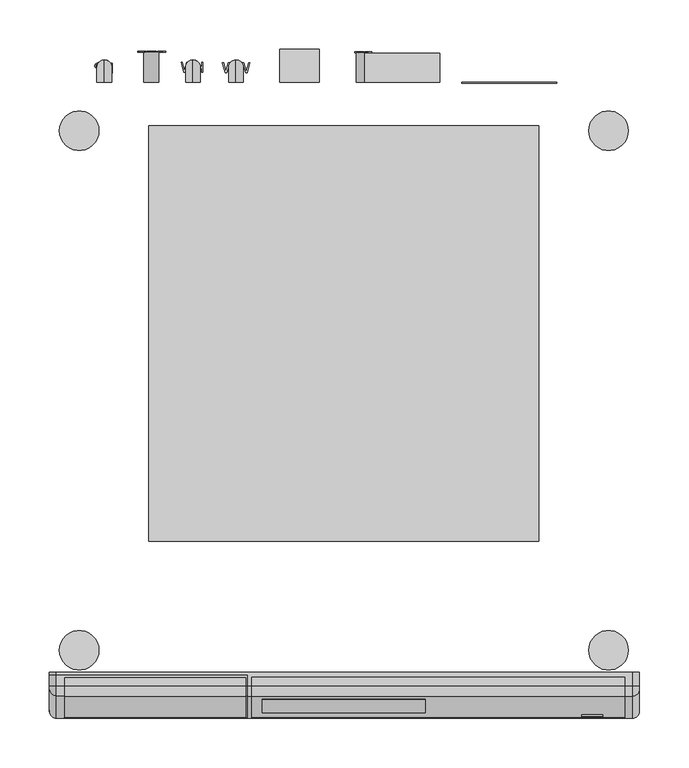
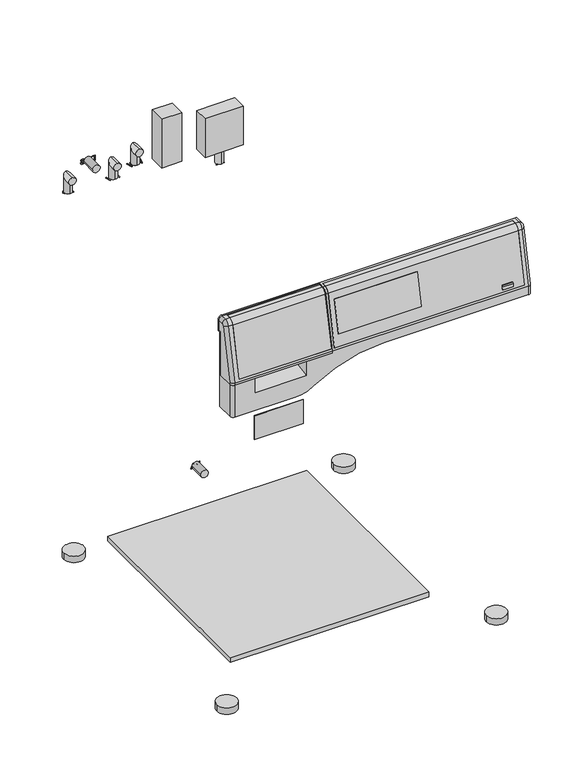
"""IFC4 building model written with IfcOpenShell, lengths in millimetres: proxy geometry, 11921280_F_PWM508DP_LW : 51508151_F_11921280_PWM508DP_LW."""

from ifc_helpers import new_model, si_unit, point, frame, frame_2d, origin, origin_with_axes, place, context, project, spatial, polyline, circle_curve, ellipse_curve, trimmed, segment, composite_curve, outline, extrude, source, transform, mapped, element, save
from ifc_brep_helpers import plane_surface, cylinder_surface, revolved_surface, advanced_brep


def specialty_equipment_2b658315(model_context):
    return source(origin(), model_context, "Body", "SolidModel", [
        advanced_brep(
        [(-297.5, -634.5, 819.0), (-297.5, -640.0, 819.0), (-297.5, -640.0, 727.0), (-297.5, -671.0, 727.0), (-297.5, -671.0, 730.2642704), (-297.5, -648.6353607, 835.4816256), (-297.5, -644.8274781, 838.6486082), (-297.5, -634.5, 838.9190427), (-97.5, -655.4823939, 836.9370075), (-97.5, -678.0, 731.0), (-97.5, -678.0, 727.0), (-97.5, -640.0, 727.0), (-97.5, -640.0, 819.0), (-97.5, -634.5, 819.0), (-97.5, -634.5, 845.9214422), (-97.5, -645.0107168, 845.6462094), (-98.5, -655.4823939, 836.9370075), (-98.5, -677.1497738, 735.0), (-282.5, -677.1497738, 735.0), (-282.5, -655.4823939, 836.9370075), (-290.5, -655.4823939, 836.9370075), (-290.5, -678.0, 731.0), (-290.5, -678.0, 727.0), (-290.5, -634.5, 845.9214422), (-290.5, -645.0107168, 845.6462094), (-282.5, -645.0107168, 845.6462094), (-282.5, -636.5, 845.8690704), (-98.5, -636.5, 845.8690704), (-98.5, -645.0107168, 845.6462094), (-98.5, -654.5042463, 836.7290958), (-98.5, -676.1274332, 735.0), (-98.5, -636.5, 844.8687276), (-98.5, -644.9845398, 844.6465521), (-282.5, -654.5042463, 836.7290958), (-282.5, -644.9845398, 844.6465521), (-282.5, -636.5, 844.8687276), (-282.5, -676.1274332, 735.0)],
        [
            (0, 1),
            (1, 2),
            (2, 3),
            (3, 4),
            (4, 5),
            (5, 6, circle_curve(frame((-297.5, -644.7227703, 834.6499789), z_axis=(-1.0, 0.0, 0.0), x_axis=(0.0, -0.978147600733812, 0.20791169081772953)), 4.0)),
            (6, 7),
            (7, 0),
            (8, 9),
            (9, 10),
            (10, 11),
            (11, 12),
            (12, 13),
            (13, 14),
            (14, 15),
            (15, 8, circle_curve(frame((-97.5, -644.7227703, 834.6499789), z_axis=(1.0, 0.0, 0.0), x_axis=(0.0, 1.0, 0.0)), 11.0)),
            (8, 16),
            (16, 17),
            (17, 18),
            (18, 19),
            (19, 20),
            (20, 21),
            (21, 9),
            (21, 22),
            (22, 10),
            (22, 3, circle_curve(frame((-290.5, -671.0, 727.0), z_axis=(0.0, 0.0, -1.0), x_axis=(0.0, 1.0, 0.0)), 7.0)),
            (2, 11),
            (1, 12),
            (0, 13),
            (7, 23, ellipse_curve(frame((-290.5, -634.5, 838.9190427), z_axis=(0.0, 1.0, 0.0), x_axis=(0.0, 0.0, 1.0)), 7.0023995, 7.0)),
            (23, 14),
            (23, 24),
            (24, 25),
            (25, 26),
            (26, 27),
            (27, 28),
            (28, 15),
            (28, 16, circle_curve(frame((-98.5, -644.7227703, 834.6499789), z_axis=(1.0, 0.0, 0.0), x_axis=(0.0, 1.0, 0.0)), 11.0)),
            (19, 25, circle_curve(frame((-282.5, -644.7227703, 834.6499789), z_axis=(-1.0, 0.0, 0.0), x_axis=(0.0, 1.0, 0.0)), 11.0)),
            (24, 20, circle_curve(frame((-290.5, -644.7227703, 834.6499789), z_axis=(1.0, 0.0, 0.0), x_axis=(0.0, 1.0, 0.0)), 11.0)),
            (29, 30),
            (30, 17),
            (27, 31),
            (31, 32),
            (32, 29, circle_curve(frame((-98.5, -644.7227703, 834.6499789), z_axis=(1.0, 0.0, 0.0), x_axis=(0.0, 1.0, 0.0)), 10.0)),
            (33, 34, circle_curve(frame((-282.5, -644.7227703, 834.6499789), z_axis=(-1.0, 0.0, 0.0), x_axis=(0.0, 1.0, 0.0)), 10.0)),
            (34, 35),
            (35, 26),
            (18, 36),
            (36, 33),
            (29, 33),
            (36, 30),
            (32, 34),
            (31, 35),
            (6, 24, circle_curve(frame((-290.5, -644.8274781, 838.6486082), z_axis=(0.0, 0.9996573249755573, 0.026176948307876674), x_axis=(0.0, 0.026176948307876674, -0.9996573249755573)), 7.0)),
            (21, 4, ellipse_curve(frame((-290.5, -671.0, 730.2642704), z_axis=(0.0, -0.10452846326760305, -0.9945218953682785), x_axis=(0.0, -0.9945218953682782, 0.1045284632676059)), 7.038558, 7.0)),
            (20, 5, circle_curve(frame((-290.5, -648.6353607, 835.4816256), z_axis=(0.0, -0.2079116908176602, -0.9781476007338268), x_axis=(0.0, 0.9781476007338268, -0.2079116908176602)), 7.0)),
        ],
        [
            plane_surface(frame((-297.5, -655.4823939, 836.9370075), z_axis=(-1.0, 0.0, 0.0), x_axis=(0.0, 0.20791169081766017, 0.9781476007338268))),
            plane_surface(frame((-97.5, -655.4823939, 836.9370075), z_axis=(1.0, 0.0, 0.0), x_axis=(0.0, -0.20791169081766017, -0.9781476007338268))),
            plane_surface(frame((-97.5, -655.4823939, 836.9370075), z_axis=(0.0, -0.9781476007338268, 0.20791169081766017), x_axis=(-1.0, 0.0, 0.0))),
            plane_surface(frame((-97.5, -678.0, 731.0), z_axis=(0.0, -1.0, 0.0), x_axis=(-1.0, 0.0, 0.0))),
            plane_surface(frame((-97.5, -678.0, 727.0), z_axis=(0.0, 0.0, -1.0), x_axis=(-1.0, 0.0, 0.0))),
            plane_surface(frame((-97.5, -640.0, 727.0), z_axis=(0.0, 1.0, 0.0), x_axis=(-1.0, 0.0, 0.0))),
            plane_surface(frame((-97.5, -640.0, 819.0), z_axis=(0.0, 0.0, -1.0), x_axis=(-1.0, 0.0, 0.0))),
            plane_surface(frame((-97.5, -634.5, 819.0), z_axis=(0.0, 1.0, 0.0), x_axis=(-1.0, 0.0, 0.0))),
            plane_surface(frame((-97.5, -634.5, 845.9214422), z_axis=(0.0, -0.02617694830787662, 0.9996573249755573), x_axis=(-1.0, 0.0, 0.0))),
            cylinder_surface(frame((-297.5, -644.7227703, 834.6499789), z_axis=(1.0, 0.0, 0.0), x_axis=(0.0, 1.0, 0.0)), 11.0),
            plane_surface(frame((-98.5, -634.7227703, 834.6499789), z_axis=(-1.0, 0.0, 0.0), x_axis=(0.0, 0.0, -1.0))),
            plane_surface(frame((-282.5, -634.7227703, 834.6499789), z_axis=(1.0, 0.0, 0.0), x_axis=(0.0, 0.0, 1.0))),
            plane_surface(frame((-98.5, -676.1274332, 735.0), z_axis=(0.0, -0.9781476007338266, 0.2079116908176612), x_axis=(-1.0, 0.0, 0.0))),
            cylinder_surface(frame((-282.5, -644.7227703, 834.6499789), z_axis=(-1.0, 0.0, 0.0), x_axis=(0.0, 1.0, 0.0)), 10.0),
            plane_surface(frame((-98.5, -644.9845398, 844.6465521), z_axis=(0.0, -0.026176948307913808, 0.9996573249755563), x_axis=(-1.0, 0.0, 0.0))),
            plane_surface(frame((-98.5, -636.5, 844.8687276), z_axis=(0.0, -1.0, 0.0), x_axis=(-1.0, 0.0, 0.0))),
            plane_surface(frame((-98.5, -677.1497738, 735.0), z_axis=(0.0, 0.0, 1.0), x_axis=(-1.0, 0.0, 0.0))),
            cylinder_surface(frame((-290.5, -644.8274781, 838.6486082), z_axis=(0.0, 0.9996573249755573, 0.026176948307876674), x_axis=(0.0, 0.026176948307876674, -0.9996573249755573)), 7.0),
            cylinder_surface(frame((-290.5, -671.0, 727.0), z_axis=(0.0, 0.0, 1.0), x_axis=(0.0, 1.0, 0.0)), 7.0),
            cylinder_surface(frame((-290.5, -671.1529668, 729.5446182), z_axis=(0.0, 0.2079116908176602, 0.9781476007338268), x_axis=(0.0, 0.9781476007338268, -0.2079116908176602)), 7.0),
            revolved_surface(trimmed(ellipse_curve(frame((-290.5, -648.6353607, 835.4816256), z_axis=(0.0, -0.20791169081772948, -0.978147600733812), x_axis=(0.0, 0.978147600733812, -0.20791169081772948)), 7.0, 7.0), [point((-290.5, -655.4823939, 836.9370075))], [point((-297.5, -648.6353607, 835.4816256))], True, "CARTESIAN"), (-297.5, -644.7227703, 834.6499789), (-1.0, 0.0, 0.0)),
        ],
        [
            (0, [[1, 2, 3, 4, 5, 6, 7, 8]]),
            (1, [[9, 10, 11, 12, 13, 14, 15, 16]]),
            (2, [[-9, 17, 18, 19, 20, 21, 22, 23]]),
            (3, [[-10, -23, 24, 25]]),
            (4, [[-11, -25, 26, -3, 27]]),
            (5, [[-2, 28, -12, -27]]),
            (6, [[-1, 29, -13, -28]]),
            (7, [[-14, -29, -8, 30, 31]]),
            (8, [[-15, -31, 32, 33, 34, 35, 36, 37]]),
            (9, [[-16, -37, 38, -17]]),
            (9, [[39, -33, 40, -21]]),
            (10, [[41, 42, -18, -38, -36, 43, 44, 45]]),
            (11, [[46, 47, 48, -34, -39, -20, 49, 50]]),
            (12, [[-41, 51, -50, 52]]),
            (13, [[-45, 53, -46, -51]]),
            (14, [[-44, 54, -47, -53]]),
            (15, [[-43, -35, -48, -54]]),
            (16, [[-42, -52, -49, -19]]),
            (17, [[55, -32, -30, -7]]),
            (18, [[56, -4, -26, -24]]),
            (19, [[-56, -22, 57, -5]]),
            (20, [[-57, -40, -55, -6]]),
        ],
    ),
        extrude(outline(polyline([(-671.2386322, 758.0), (-672.2609728, 758.0), (-658.4447963, 823.0), (-657.4224557, 823.0), (-671.2386322, 758.0)])), frame((-82.5, 0.0, 0.0), z_axis=(1.0, 0.0, 0.0), x_axis=(0.0, 1.0, 0.0)), (0.0, 0.0, 1.0), 165.0),
        advanced_brep(
        [(284.0, -654.5042463, 836.7290958), (284.0, -644.9845398, 844.6465521), (284.0, -636.5, 844.8687276), (284.0, -636.5, 845.8690704), (284.0, -645.0107168, 845.6462094), (284.0, -655.4823939, 836.9370075), (284.0, -677.1497738, 735.0), (284.0, -676.1274332, 735.0), (-93.0, -654.5042463, 836.7290958), (-93.0, -676.1274332, 735.0), (-93.0, -677.1497738, 735.0), (-93.0, -655.4823939, 836.9370075), (-93.0, -645.0107168, 845.6462094), (-93.0, -636.5, 845.8690704), (-93.0, -636.5, 844.8687276), (-93.0, -644.9845398, 844.6465521), (82.5, -658.4447963, 823.0), (82.5, -672.2609728, 758.0), (-82.5, -672.2609728, 758.0), (-82.5, -658.4447963, 823.0), (82.5, -671.2386322, 758.0), (82.5, -657.4224557, 823.0), (-82.5, -657.4224557, 823.0), (-82.5, -671.2386322, 758.0)],
        [
            (0, 1, circle_curve(frame((284.0, -644.7227703, 834.6499789), z_axis=(-1.0, 0.0, 0.0), x_axis=(0.0, 1.0, 0.0)), 10.0)),
            (1, 2),
            (2, 3),
            (3, 4),
            (4, 5, circle_curve(frame((284.0, -644.7227703, 834.6499789), z_axis=(1.0, 0.0, 0.0), x_axis=(0.0, 1.0, 0.0)), 11.0)),
            (5, 6),
            (6, 7),
            (7, 0),
            (8, 9),
            (9, 10),
            (10, 11),
            (11, 12, circle_curve(frame((-93.0, -644.7227703, 834.6499789), z_axis=(-1.0, 0.0, 0.0), x_axis=(0.0, 1.0, 0.0)), 11.0)),
            (12, 13),
            (13, 14),
            (14, 15),
            (15, 8, circle_curve(frame((-93.0, -644.7227703, 834.6499789), z_axis=(1.0, 0.0, 0.0), x_axis=(0.0, 1.0, 0.0)), 10.0)),
            (0, 8),
            (15, 1),
            (14, 2),
            (13, 3),
            (12, 4),
            (11, 5),
            (10, 6),
            (16, 17),
            (17, 18),
            (18, 19),
            (19, 16),
            (9, 7),
            (20, 21),
            (21, 22),
            (22, 23),
            (23, 20),
            (20, 17),
            (16, 21),
            (22, 19),
            (18, 23),
        ],
        [
            plane_surface(frame((284.0, -634.7227703, 834.6499789), z_axis=(1.0, 0.0, 0.0), x_axis=(0.0, 0.0, -1.0))),
            plane_surface(frame((-93.0, -634.7227703, 834.6499789), z_axis=(-1.0, 0.0, 0.0), x_axis=(0.0, 0.0, 1.0))),
            revolved_surface(polyline([(-93.0, -634.7227703, 834.6499789), (284.0, -634.7227703, 834.6499789)]), (-93.0, -644.7227703, 834.6499789), (-1.0, 0.0, 0.0)),
            plane_surface(frame((284.0, -644.9845398, 844.6465521), z_axis=(0.0, 0.02617694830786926, -0.9996573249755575), x_axis=(-1.0, 0.0, 0.0))),
            plane_surface(frame((284.0, -636.5, 844.8687276), z_axis=(0.0, 1.0, 0.0), x_axis=(-1.0, 0.0, 0.0))),
            plane_surface(frame((284.0, -636.5, 845.8690704), z_axis=(0.0, -0.026176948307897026, 0.9996573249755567), x_axis=(-1.0, 0.0, 0.0))),
            cylinder_surface(frame((-93.0, -644.7227703, 834.6499789), z_axis=(1.0, 0.0, 0.0), x_axis=(0.0, 1.0, 0.0)), 11.0),
            plane_surface(frame((284.0, -655.4823939, 836.9370075), z_axis=(0.0, -0.9781476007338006, 0.20791169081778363), x_axis=(-1.0, 0.0, 0.0))),
            plane_surface(frame((284.0, -677.1497738, 735.0), z_axis=(0.0, 0.0, -1.0), x_axis=(-1.0, 0.0, 0.0))),
            plane_surface(frame((284.0, -676.1274332, 735.0), z_axis=(0.0, 0.9781476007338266, -0.2079116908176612), x_axis=(-1.0, 0.0, 0.0))),
            plane_surface(frame((82.5, -658.4447963, 823.0), z_axis=(-1.0, 0.0, 0.0), x_axis=(0.0, -1.0, 0.0))),
            plane_surface(frame((-82.5, -658.4447963, 823.0), z_axis=(1.0, 0.0, 0.0), x_axis=(0.0, 1.0, 0.0))),
            plane_surface(frame((82.5, -657.4224557, 823.0), z_axis=(0.0, 0.0, -1.0), x_axis=(-1.0, 0.0, 0.0))),
            plane_surface(frame((82.5, -672.2609728, 758.0), z_axis=(0.0, 0.0, 1.0), x_axis=(-1.0, 0.0, 0.0))),
        ],
        [
            (0, [[1, 2, 3, 4, 5, 6, 7, 8]]),
            (1, [[9, 10, 11, 12, 13, 14, 15, 16]]),
            (2, [[-1, 17, -16, 18]]),
            (3, [[-2, -18, -15, 19]]),
            (4, [[-3, -19, -14, 20]]),
            (5, [[-4, -20, -13, 21]]),
            (6, [[-5, -21, -12, 22]]),
            (7, [[-6, -22, -11, 23], [24, 25, 26, 27]]),
            (8, [[-7, -23, -10, 28]]),
            (9, [[-8, -28, -9, -17], [29, 30, 31, 32]]),
            (10, [[33, -24, 34, -29]]),
            (11, [[35, -26, 36, -31]]),
            (12, [[-34, -27, -35, -30]]),
            (13, [[-33, -32, -36, -25]]),
        ],
    ),
        advanced_brep(
        [(298.5, -637.0, 816.0), (298.5, -631.5, 816.0), (298.5, -631.5, 838.9976005), (298.5, -644.8274781, 838.6486082), (298.5, -648.6353607, 835.4816256), (298.5, -671.0, 730.2642704), (298.5, -671.0, 713.0), (298.5, -637.0, 713.0), (-297.5, -637.0, 816.0), (-297.5, -637.0, 660.0), (-297.5, -671.0, 660.0), (-297.5, -671.0, 727.0), (-297.5, -640.0, 727.0), (-297.5, -640.0, 819.0), (-297.5, -634.5, 819.0), (-297.5, -634.5, 838.9190427), (-297.5, -631.5, 838.9976005), (-297.5, -631.5, 816.0), (-290.5, -631.5, 846.0), (291.5, -631.5, 846.0), (284.0, -636.5, 845.8690704), (284.0, -645.0107168, 845.6462094), (291.5, -645.0107168, 845.6462094), (-290.5, -634.5, 845.9214422), (-97.5, -634.5, 845.9214422), (-97.5, -645.0107168, 845.6462094), (-93.0, -645.0107168, 845.6462094), (-93.0, -636.5, 845.8690704), (284.0, -655.4823939, 836.9370075), (291.5000072, -655.4823939, 836.9370075), (-93.0, -655.4823939, 836.9370075), (-97.5, -655.4823939, 836.9370075), (284.0, -677.1497738, 735.0), (-93.0, -677.1497738, 735.0), (-97.5, -678.0, 731.0), (291.5, -678.0, 731.0), (-97.5, -678.0, 727.0), (-148.5, -678.0, 727.0), (-148.5, -678.0, 697.0), (-251.5, -678.0, 697.0), (-251.5, -678.0, 727.0), (-290.5, -678.0, 727.0), (-290.5, -678.0, 660.0), (-170.6302935, -678.0, 660.0), (-135.780818, -678.0, 670.5165354), (5.0, -678.0, 713.0), (291.5, -678.0, 713.0), (-170.6302935, -637.0, 660.0), (5.0, -637.0, 713.0), (-135.780818, -637.0, 670.5165354), (284.0, -636.5, 844.8687276), (284.0, -644.9845398, 844.6465521), (284.0, -654.5042463, 836.7290958), (284.0, -676.1274332, 735.0), (-93.0, -676.1274332, 735.0), (-93.0, -654.5042463, 836.7290958), (-93.0, -644.9845398, 844.6465521), (-93.0, -636.5, 844.8687276), (-97.5, -634.5, 819.0), (-97.5, -640.0, 819.0), (-97.5, -640.0, 727.0), (-148.5, -640.0, 727.0), (-251.5, -640.0, 727.0), (-251.5, -640.0, 703.7004253), (-148.5, -640.0, 703.7004253)],
        [
            (0, 1),
            (1, 2),
            (2, 3),
            (3, 4, circle_curve(frame((298.5, -644.7227703, 834.6499789), z_axis=(1.0, 0.0, 0.0), x_axis=(0.0, -0.02617694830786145, 0.9996573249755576)), 4.0)),
            (4, 5),
            (5, 6),
            (6, 7),
            (7, 0),
            (8, 9),
            (9, 10),
            (10, 11),
            (11, 12),
            (12, 13),
            (13, 14),
            (14, 15),
            (15, 16),
            (16, 17),
            (17, 8),
            (0, 8),
            (17, 1),
            (16, 18, ellipse_curve(frame((-290.5, -631.5, 838.9976005), z_axis=(0.0, 1.0, 0.0), x_axis=(0.0, 0.0, 0.9999999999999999)), 7.0023995, 7.0)),
            (18, 19),
            (19, 2, ellipse_curve(frame((291.5, -631.5, 838.9976005), z_axis=(0.0, 1.0, 0.0), x_axis=(0.0, 0.0, -1.0)), 7.0023995, 7.0)),
            (20, 21),
            (21, 22),
            (22, 19),
            (18, 23),
            (23, 24),
            (24, 25),
            (25, 26),
            (26, 27),
            (27, 20),
            (21, 28, circle_curve(frame((284.0, -644.7227703, 834.6499789), z_axis=(1.0, 0.0, 0.0), x_axis=(0.0, 1.0, 0.0)), 11.0)),
            (28, 29),
            (29, 22, circle_curve(frame((291.5, -644.7227703, 834.6499789), z_axis=(-1.0, 0.0, 0.0), x_axis=(0.0, 1.0, 0.0)), 11.0)),
            (30, 26, circle_curve(frame((-93.0, -644.7227703, 834.6499789), z_axis=(-1.0, 0.0, 0.0), x_axis=(0.0, 1.0, 0.0)), 11.0)),
            (25, 31, circle_curve(frame((-97.5, -644.7227703, 834.6499789), z_axis=(1.0, 0.0, 0.0), x_axis=(0.0, 1.0, 0.0)), 11.0)),
            (31, 30),
            (28, 32),
            (32, 33),
            (33, 30),
            (31, 34),
            (34, 35),
            (35, 29),
            (34, 36),
            (36, 37),
            (37, 38),
            (38, 39),
            (39, 40),
            (40, 41),
            (41, 42),
            (42, 43),
            (43, 44, circle_curve(frame((-170.6302935, -678.0, 723.0), z_axis=(0.0, -1.0, 0.0), x_axis=(1.0, 0.0, 0.0)), 63.0)),
            (44, 45, circle_curve(frame((5.0, -678.0, 458.5), z_axis=(0.0, 1.0, 0.0), x_axis=(1.0, 0.0, 0.0)), 254.5)),
            (45, 46),
            (46, 35),
            (9, 47),
            (47, 43),
            (42, 10, circle_curve(frame((-290.5, -671.0, 660.0), z_axis=(0.0, 0.0, -1.0), x_axis=(0.0, 1.0, 0.0)), 7.0)),
            (7, 48),
            (48, 49, circle_curve(frame((5.0, -637.0, 458.5), z_axis=(0.0, -1.0, 0.0), x_axis=(1.0, 0.0, 0.0)), 254.5)),
            (49, 47, circle_curve(frame((-170.6302935, -637.0, 723.0), z_axis=(0.0, 1.0, 0.0), x_axis=(1.0, 0.0, 0.0)), 63.0)),
            (20, 50),
            (50, 51),
            (51, 52, circle_curve(frame((284.0, -644.7227703, 834.6499789), z_axis=(1.0, 0.0, 0.0), x_axis=(0.0, 1.0, 0.0)), 10.0)),
            (52, 53),
            (53, 32),
            (33, 54),
            (54, 55),
            (55, 56, circle_curve(frame((-93.0, -644.7227703, 834.6499789), z_axis=(-1.0, 0.0, 0.0), x_axis=(0.0, 1.0, 0.0)), 10.0)),
            (56, 57),
            (57, 27),
            (53, 54),
            (52, 55),
            (51, 56),
            (50, 57),
            (24, 58),
            (58, 59),
            (59, 60),
            (60, 36),
            (60, 61),
            (61, 37),
            (62, 12),
            (11, 41, circle_curve(frame((-290.5, -671.0, 727.0), z_axis=(0.0, 0.0, 1.0), x_axis=(0.0, 1.0, 0.0)), 7.0)),
            (40, 62),
            (59, 13),
            (62, 63),
            (63, 64),
            (64, 61),
            (58, 14),
            (23, 15, ellipse_curve(frame((-290.5, -634.5, 838.9190427), z_axis=(0.0, -1.0, 0.0), x_axis=(0.0, 0.0, 0.9999999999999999)), 7.0023995, 7.0)),
            (64, 38),
            (39, 63),
            (22, 3, circle_curve(frame((291.5, -644.8274781, 838.6486082), z_axis=(0.0, 0.9996573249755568, 0.02617694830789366), x_axis=(1.0, 0.0, 0.0)), 7.0)),
            (29, 4, circle_curve(frame((291.5, -648.6353607, 835.4816256), z_axis=(0.0, 0.20791169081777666, 0.9781476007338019), x_axis=(1.0, 0.0, 0.0)), 7.0)),
            (35, 5, ellipse_curve(frame((291.5, -671.0, 730.2642704), z_axis=(0.0, 0.10452846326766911, 0.9945218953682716), x_axis=(0.0, -0.9945218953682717, 0.10452846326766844)), 7.038558, 7.0)),
            (46, 6, circle_curve(frame((291.5, -671.0, 713.0), z_axis=(0.0, 0.0, 1.0), x_axis=(1.0, 0.0, 0.0)), 7.0)),
            (45, 48),
            (44, 49),
        ],
        [
            plane_surface(frame((298.5, -631.5, 816.0), z_axis=(1.0, 0.0, 0.0), x_axis=(0.0, 1.0, 0.0))),
            plane_surface(frame((-297.5, -631.5, 816.0), z_axis=(-1.0, 0.0, 0.0), x_axis=(0.0, -1.0, 0.0))),
            plane_surface(frame((298.5, -637.0, 816.0), z_axis=(0.0, 0.0, -1.0), x_axis=(-1.0, 0.0, 0.0))),
            plane_surface(frame((298.5, -631.5, 816.0), z_axis=(0.0, 1.0, 0.0), x_axis=(-1.0, 0.0, 0.0))),
            plane_surface(frame((298.5, -631.5, 846.0), z_axis=(0.0, -0.026176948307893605, 0.9996573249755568), x_axis=(-1.0, 0.0, 0.0))),
            cylinder_surface(frame((-297.5, -644.7227703, 834.6499789), z_axis=(1.0, 0.0, 0.0), x_axis=(0.0, 1.0, 0.0)), 11.0),
            plane_surface(frame((298.5, -655.4823939, 836.9370075), z_axis=(0.0, -0.9781476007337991, 0.20791169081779), x_axis=(-1.0, 0.0, 0.0))),
            plane_surface(frame((298.5, -678.0, 731.0), z_axis=(0.0, -1.0, 0.0), x_axis=(-1.0, 0.0, 0.0))),
            plane_surface(frame((298.5, -678.0, 660.0), z_axis=(0.0, 0.0, -1.0), x_axis=(-1.0, 0.0, 0.0))),
            plane_surface(frame((298.5, -637.0, 660.0), z_axis=(0.0, 1.0, 0.0), x_axis=(-1.0, 0.0, 0.0))),
            plane_surface(frame((284.0, -677.1497738, 735.0), z_axis=(-1.0, 0.0, 0.0), x_axis=(0.0, 1.0, 0.0))),
            plane_surface(frame((-93.0, -677.1497738, 735.0), z_axis=(1.0, 0.0, 0.0), x_axis=(0.0, -1.0, 0.0))),
            plane_surface(frame((284.0, -677.1497738, 735.0), z_axis=(0.0, 0.0, 1.0), x_axis=(-1.0, 0.0, 0.0))),
            plane_surface(frame((284.0, -676.1274332, 735.0), z_axis=(0.0, -0.9781476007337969, 0.20791169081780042), x_axis=(-1.0, 0.0, 0.0))),
            cylinder_surface(frame((-93.0, -644.7227703, 834.6499789), z_axis=(-1.0, 0.0, 0.0), x_axis=(0.0, 1.0, 0.0)), 10.0),
            plane_surface(frame((284.0, -644.9845398, 844.6465521), z_axis=(0.0, -0.026176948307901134, 0.9996573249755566), x_axis=(-1.0, 0.0, 0.0))),
            plane_surface(frame((284.0, -636.5, 844.8687276), z_axis=(0.0, -1.0, 0.0), x_axis=(-1.0, 0.0, 0.0))),
            plane_surface(frame((-97.5, -678.0, 727.0), z_axis=(-1.0, 0.0, 0.0), x_axis=(0.0, 1.0, 0.0))),
            plane_surface(frame((-97.5, -678.0, 727.0), z_axis=(0.0, 0.0, 1.0), x_axis=(-1.0, 0.0, 0.0))),
            plane_surface(frame((-97.5, -640.0, 727.0), z_axis=(0.0, -1.0, 0.0), x_axis=(-1.0, 0.0, 0.0))),
            plane_surface(frame((-97.5, -640.0, 819.0), z_axis=(0.0, 0.0, 1.0), x_axis=(-1.0, 0.0, 0.0))),
            plane_surface(frame((-97.5, -634.5, 819.0), z_axis=(0.0, -1.0, 0.0), x_axis=(-1.0, 0.0, 0.0))),
            plane_surface(frame((-148.5, -678.0, 697.0), z_axis=(-1.0000000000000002, 0.0, 0.0), x_axis=(0.0, 0.9848077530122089, 0.17364817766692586))),
            plane_surface(frame((-251.5, -678.0, 697.0), z_axis=(1.0000000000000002, 0.0, 0.0), x_axis=(0.0, -0.9848077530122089, -0.17364817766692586))),
            plane_surface(frame((-148.5, -678.0, 697.0), z_axis=(0.0, -0.17364817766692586, 0.9848077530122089), x_axis=(-1.0, 0.0, 0.0))),
            cylinder_surface(frame((-290.5, -671.0, 660.0), z_axis=(0.0, 0.0, 1.0), x_axis=(0.0, 1.0, 0.0)), 7.0),
            cylinder_surface(frame((-290.5, -644.8274781, 838.6486082), z_axis=(0.0, 0.9996573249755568, 0.02617694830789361), x_axis=(0.0, 0.02617694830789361, -0.9996573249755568)), 7.0),
            cylinder_surface(frame((291.5, -631.3167614, 839.0023987), z_axis=(0.0, -0.9996573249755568, -0.02617694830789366), x_axis=(1.0, 0.0, 0.0)), 7.0),
            revolved_surface(trimmed(ellipse_curve(frame((291.5, -644.8274781, 838.6486082), z_axis=(0.0, 0.9996573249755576, 0.026176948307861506), x_axis=(1.0, 0.0, 0.0)), 7.0, 7.0), [point((291.5, -645.0107168, 845.6462094))], [point((298.5, -644.8274781, 838.6486082))], True, "CARTESIAN"), (298.5, -644.7227703, 834.6499789), (1.0, 0.0, 0.0)),
            cylinder_surface(frame((291.5, -648.6353607, 835.4816256), z_axis=(0.0, -0.20791169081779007, -0.9781476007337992), x_axis=(1.0, 0.0, 0.0)), 7.0),
            cylinder_surface(frame((291.5, -671.0, 731.0), z_axis=(0.0, 0.0, -1.0), x_axis=(1.0, 0.0, 0.0)), 7.0),
            plane_surface(frame((298.5, -678.0, 713.0), z_axis=(0.0, 0.0, -1.0), x_axis=(0.0, 1.0, 0.0))),
            revolved_surface(polyline([(259.5, -678.0, 458.5), (259.5, -637.0, 458.5)]), (5.0, -637.0, 458.5), (0.0, -1.0, 0.0)),
            cylinder_surface(frame((-170.6302935, -637.0, 723.0), z_axis=(0.0, 1.0, 0.0), x_axis=(1.0, 0.0, 0.0)), 63.0),
        ],
        [
            (0, [[1, 2, 3, 4, 5, 6, 7, 8]]),
            (1, [[9, 10, 11, 12, 13, 14, 15, 16, 17, 18]]),
            (2, [[-1, 19, -18, 20]]),
            (3, [[-20, -17, 21, 22, 23, -2]]),
            (4, [[24, 25, 26, -22, 27, 28, 29, 30, 31, 32]]),
            (5, [[33, 34, 35, -25]]),
            (5, [[36, -30, 37, 38]]),
            (6, [[39, 40, 41, -38, 42, 43, 44, -34]]),
            (7, [[45, 46, 47, 48, 49, 50, 51, 52, 53, 54, 55, 56, -43]]),
            (8, [[-10, 57, 58, -52, 59]]),
            (9, [[-9, -19, -8, 60, 61, 62, -57]]),
            (10, [[63, 64, 65, 66, 67, -39, -33, -24]]),
            (11, [[68, 69, 70, 71, 72, -31, -36, -41]]),
            (12, [[-67, 73, -68, -40]]),
            (13, [[-66, 74, -69, -73]]),
            (14, [[-65, 75, -70, -74]]),
            (15, [[-64, 76, -71, -75]]),
            (16, [[-63, -32, -72, -76]]),
            (17, [[77, 78, 79, 80, -45, -42, -37, -29]]),
            (18, [[-80, 81, 82, -46]]),
            (18, [[83, -12, 84, -50, 85]]),
            (19, [[-79, 86, -13, -83, 87, 88, 89, -81]]),
            (20, [[-78, 90, -14, -86]]),
            (21, [[-77, -28, 91, -15, -90]]),
            (22, [[-89, 92, -47, -82]]),
            (23, [[93, -87, -85, -49]]),
            (24, [[-92, -88, -93, -48]]),
            (25, [[-11, -59, -51, -84]]),
            (26, [[-16, -91, -27, -21]]),
            (27, [[94, -3, -23, -26]]),
            (28, [[-94, -35, 95, -4]]),
            (29, [[-95, -44, 96, -5]]),
            (30, [[-96, -56, 97, -6]]),
            (31, [[98, -60, -7, -97, -55]]),
            (32, [[-98, -54, 99, -61]]),
            (33, [[-99, -53, -58, -62]]),
        ],
    ),
        extrude(outline(polyline([(-675.8744344, 741.0), (-678.0, 741.0), (-676.8772818, 746.2819736), (-675.6098453, 749.0), (-674.1739819, 749.0), (-675.8744344, 741.0)])), frame((240.5, 0.0, 0.0), z_axis=(1.0, 0.0, 0.0), x_axis=(0.0, 1.0, 0.0)), (0.0, 0.0, 1.0), 21.0),
        extrude(outline(composite_curve([segment(polyline([(-676.1274332, 735.0), (-677.1497738, 735.0), (-655.4823939, 836.9370075)]), True, "CONTINUOUS"), segment(trimmed(circle_curve(frame_2d((-644.7227703, 834.6499789)), 11.0), [point((-655.4823939, 836.9370075))], [point((-645.0107168, 845.6462094))], False, "CARTESIAN"), True, "CONTINUOUS"), segment(polyline([(-645.0107168, 845.6462094), (-636.5, 845.8690704), (-636.5, 844.8687276), (-644.9845398, 844.6465521)]), True, "CONTINUOUS"), segment(trimmed(circle_curve(frame_2d((-644.7227703, 834.6499789)), 10.0), [point((-644.9845398, 844.6465521))], [point((-654.5042463, 836.7290958))], True, "CARTESIAN"), True, "CONTINUOUS"), segment(polyline([(-654.5042463, 836.7290958), (-676.1274332, 735.0)]), True, "CONTINUOUS")], self_intersect=False)), frame((-282.5, 0.0, 0.0), z_axis=(1.0, 0.0, 0.0), x_axis=(0.0, 1.0, 0.0)), (0.0, 0.0, 1.0), 184.0),
        advanced_brep(
        [(-242.0, -35.0, 740.5), (-242.0, -35.0, 755.5), (-242.0, -27.5, 740.5), (-242.0, -12.5, 755.5), (-242.0, -27.5, 718.0), (-242.0, -12.5, 718.0)],
        [
            (0, 1, circle_curve(frame((-242.0, -35.0, 748.0), z_axis=(0.0, -1.0, 0.0), x_axis=(0.0, 0.0, 1.0)), 7.5)),
            (1, 0, circle_curve(frame((-242.0, -35.0, 748.0), z_axis=(0.0, -1.0, 0.0), x_axis=(0.0, 0.0, 1.0)), 7.5)),
            (0, 2),
            (2, 3, ellipse_curve(frame((-242.0, -20.0, 748.0), z_axis=(0.0, -0.7071067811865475, 0.7071067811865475), x_axis=(0.0, -0.7071067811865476, -0.7071067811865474)), 10.6066017, 7.5)),
            (3, 1),
            (3, 2, ellipse_curve(frame((-242.0, -20.0, 748.0), z_axis=(0.0, -0.7071067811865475, 0.7071067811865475), x_axis=(0.0, -0.7071067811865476, -0.7071067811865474)), 10.6066017, 7.5)),
            (4, 5, circle_curve(frame((-242.0, -20.0, 718.0), z_axis=(0.0, 0.0, -1.0), x_axis=(0.0, 1.0, 0.0)), 7.5)),
            (5, 4, circle_curve(frame((-242.0, -20.0, 718.0), z_axis=(0.0, 0.0, -1.0), x_axis=(0.0, 1.0, 0.0)), 7.5)),
            (2, 4),
            (5, 3),
        ],
        [
            plane_surface(frame((-298.0, -35.0, 748.0), z_axis=(0.0, -1.0, 0.0), x_axis=(1.0, 0.0, 0.0))),
            cylinder_surface(frame((-242.0, -35.0, 748.0), z_axis=(0.0, -1.0, 0.0), x_axis=(0.0, 0.0, 1.0)), 7.5),
            plane_surface(frame((-298.0, -20.0, 718.0), z_axis=(0.0, 0.0, -1.0), x_axis=(1.0, 0.0, 0.0))),
            cylinder_surface(frame((-242.0, -20.0, 748.0), z_axis=(0.0, 0.0, 1.0), x_axis=(0.0, 1.0, 0.0)), 7.5),
        ],
        [
            (0, [[1, 2]]),
            (1, [[-1, 3, 4, 5]]),
            (1, [[-2, -5, 6, -3]]),
            (2, [[7, 8]]),
            (3, [[-4, 9, -8, 10]]),
            (3, [[-6, -10, -7, -9]]),
        ],
    ),
        extrude(outline(composite_curve([segment(trimmed(circle_curve(frame_2d((757.5, -194.5)), 7.5), [point((757.5, -187.0))], [point((757.5, -202.0))], False, "CARTESIAN"), True, "CONTINUOUS"), segment(trimmed(circle_curve(frame_2d((757.5, -194.5)), 7.5), [point((757.5, -202.0))], [point((757.5, -187.0))], False, "CARTESIAN"), True, "CONTINUOUS")], self_intersect=False)), frame((0.0, -35.0, 0.0), z_axis=(0.0, 1.0, 0.0), x_axis=(0.0, 0.0, 1.0)), (0.0, 0.0, 1.0), 30.0),
        extrude(outline(polyline([(752.5, -179.9815352), (762.545631, -179.9815352), (762.545631, -183.4469836), (762.4009308, -185.2397952), (761.6823346, -186.7162282), (759.965552, -187.9057134), (757.5767715, -188.3005734), (755.5497417, -188.0332458), (754.0867977, -187.3465327), (753.1756766, -186.4292803), (752.6716783, -185.2287587), (752.5, -183.6137568), (752.5, -179.9815352)]), holes=[polyline([(753.7557039, -181.2372391), (753.7557039, -183.4592463), (753.9371923, -185.0754745), (754.4497746, -186.0074423), (755.6968945, -186.7714105), (757.5963919, -187.0448695), (759.9753621, -186.5089881), (761.0888183, -185.2054595), (761.2899271, -183.4249107), (761.2899271, -181.2372391), (753.7557039, -181.2372391)])]), frame((0.0, -5.0, 0.0), z_axis=(0.0, 1.0, 0.0), x_axis=(0.0, 0.0, 1.0)), (0.0, 0.0, 1.0), 1.0),
        extrude(outline(polyline([(757.390378, -189.5562772), (761.2923797, -190.8953677), (762.702594, -194.3510059), (762.0404064, -196.8501509), (760.1936388, -198.5473132), (757.5056477, -199.1310193), (754.7808684, -198.5166564), (752.9610788, -196.7753483), (752.343037, -194.3436483), (753.0260713, -191.8175252), (754.8900067, -190.1301732), (757.390378, -189.5562772)]), holes=[polyline([(757.3781153, -190.8119811), (754.6091901, -191.816299), (753.5987409, -194.3362906), (754.6190003, -196.8783552), (757.5154579, -197.8753154), (759.5878598, -197.4485723), (760.9600596, -196.2014524), (761.4468901, -194.3583636), (760.508791, -191.8592185), (757.3781153, -190.8119811)])]), frame((0.0, -5.0, 0.0), z_axis=(0.0, 1.0, 0.0), x_axis=(0.0, 0.0, 1.0)), (0.0, 0.0, 1.0), 1.0),
        extrude(outline(polyline([(755.9531857, -200.3867232), (755.9531857, -201.6424271), (754.6962555, -202.0470973), (753.9016304, -203.0354736), (753.5987409, -204.5413372), (753.828054, -205.8534496), (754.4583585, -206.7008045), (755.3008083, -206.9791685), (756.0843969, -206.7707021), (756.654614, -205.9172158), (757.1340869, -204.0888423), (757.7533549, -202.1206737), (758.6877752, -201.0525896), (759.9361214, -200.7006492), (761.3573722, -201.1359762), (762.3604637, -202.4076216), (762.702594, -204.2691045), (762.3445222, -206.2556673), (761.2923797, -207.5800425), (759.7202973, -208.0779094), (759.7202973, -206.8222056), (761.0103368, -206.110967), (761.4468901, -204.3181554), (761.0152419, -202.5204388), (759.9729096, -201.956353), (759.1022555, -202.3561181), (758.4008272, -204.4064471), (757.7705227, -206.6284544), (756.7527159, -207.8436912), (755.3326914, -208.2348724), (753.8305065, -207.7848301), (752.7342182, -206.4898855), (752.343037, -204.5903881), (752.764875, -202.3475342), (754.0352942, -200.928736), (755.9531857, -200.3867232)])), frame((0.0, -5.0, 0.0), z_axis=(0.0, 1.0, 0.0), x_axis=(0.0, 0.0, 1.0)), (0.0, 0.0, 1.0), 1.0),
        advanced_brep(
        [(-152.5, -35.0, 739.0), (-152.5, -35.0, 754.0), (-152.5, -27.5, 739.0), (-152.5, -12.5, 754.0), (-152.5, -27.5, 716.5), (-152.5, -12.5, 716.5)],
        [
            (0, 1, circle_curve(frame((-152.5, -35.0, 746.5), z_axis=(0.0, -1.0, 0.0), x_axis=(0.0, 0.0, 1.0)), 7.5)),
            (1, 0, circle_curve(frame((-152.5, -35.0, 746.5), z_axis=(0.0, -1.0, 0.0), x_axis=(0.0, 0.0, 1.0)), 7.5)),
            (0, 2),
            (2, 3, ellipse_curve(frame((-152.5, -20.0, 746.5), z_axis=(0.0, -0.7071067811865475, 0.7071067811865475), x_axis=(0.0, -0.7071067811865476, -0.7071067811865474)), 10.6066017, 7.5)),
            (3, 1),
            (3, 2, ellipse_curve(frame((-152.5, -20.0, 746.5), z_axis=(0.0, -0.7071067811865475, 0.7071067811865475), x_axis=(0.0, -0.7071067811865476, -0.7071067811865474)), 10.6066017, 7.5)),
            (4, 5, circle_curve(frame((-152.5, -20.0, 716.5), z_axis=(0.0, 0.0, -1.0), x_axis=(0.0, 1.0, 0.0)), 7.5)),
            (5, 4, circle_curve(frame((-152.5, -20.0, 716.5), z_axis=(0.0, 0.0, -1.0), x_axis=(0.0, 1.0, 0.0)), 7.5)),
            (2, 4),
            (5, 3),
        ],
        [
            plane_surface(frame((-298.0, -35.0, 746.5), z_axis=(0.0, -1.0, 0.0), x_axis=(1.0, 0.0, 0.0))),
            cylinder_surface(frame((-152.5, -35.0, 746.5), z_axis=(0.0, -1.0, 0.0), x_axis=(0.0, 0.0, 1.0)), 7.5),
            plane_surface(frame((-298.0, -20.0, 716.5), z_axis=(0.0, 0.0, -1.0), x_axis=(1.0, 0.0, 0.0))),
            cylinder_surface(frame((-152.5, -20.0, 746.5), z_axis=(0.0, 0.0, 1.0), x_axis=(0.0, 1.0, 0.0)), 7.5),
        ],
        [
            (0, [[1, 2]]),
            (1, [[-1, 3, 4, 5]]),
            (1, [[-2, -5, 6, -3]]),
            (2, [[7, 8]]),
            (3, [[-4, 9, -8, 10]]),
            (3, [[-6, -10, -7, -9]]),
        ],
    ),
        advanced_brep(
        [(-109.0, -35.0, 753.5), (-109.0, -35.0, 768.5), (-109.0, -27.5, 753.5), (-109.0, -12.5, 768.5), (-109.0, -27.5, 731.0), (-109.0, -12.5, 731.0)],
        [
            (0, 1, circle_curve(frame((-109.0, -35.0, 761.0), z_axis=(0.0, -1.0, 0.0), x_axis=(0.0, 0.0, 1.0)), 7.5)),
            (1, 0, circle_curve(frame((-109.0, -35.0, 761.0), z_axis=(0.0, -1.0, 0.0), x_axis=(0.0, 0.0, 1.0)), 7.5)),
            (0, 2),
            (2, 3, ellipse_curve(frame((-109.0, -20.0, 761.0), z_axis=(0.0, -0.7071067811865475, 0.7071067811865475), x_axis=(0.0, -0.7071067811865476, -0.7071067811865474)), 10.6066017, 7.5)),
            (3, 1),
            (3, 2, ellipse_curve(frame((-109.0, -20.0, 761.0), z_axis=(0.0, -0.7071067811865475, 0.7071067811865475), x_axis=(0.0, -0.7071067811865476, -0.7071067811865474)), 10.6066017, 7.5)),
            (4, 5, circle_curve(frame((-109.0, -20.0, 731.0), z_axis=(0.0, 0.0, -1.0), x_axis=(0.0, 1.0, 0.0)), 7.5)),
            (5, 4, circle_curve(frame((-109.0, -20.0, 731.0), z_axis=(0.0, 0.0, -1.0), x_axis=(0.0, 1.0, 0.0)), 7.5)),
            (2, 4),
            (5, 3),
        ],
        [
            plane_surface(frame((-298.0, -35.0, 761.0), z_axis=(0.0, -1.0, 0.0), x_axis=(1.0, 0.0, 0.0))),
            cylinder_surface(frame((-109.0, -35.0, 761.0), z_axis=(0.0, -1.0, 0.0), x_axis=(0.0, 0.0, 1.0)), 7.5),
            plane_surface(frame((-298.0, -20.0, 731.0), z_axis=(0.0, 0.0, -1.0), x_axis=(1.0, 0.0, 0.0))),
            cylinder_surface(frame((-109.0, -20.0, 761.0), z_axis=(0.0, 0.0, 1.0), x_axis=(0.0, 1.0, 0.0)), 7.5),
        ],
        [
            (0, [[1, 2]]),
            (1, [[-1, 3, 4, 5]]),
            (1, [[-2, -5, 6, -3]]),
            (2, [[7, 8]]),
            (3, [[-4, 9, -8, 10]]),
            (3, [[-6, -10, -7, -9]]),
        ],
    ),
        extrude(outline(polyline([(-142.5237638, -25.0), (-143.7834134, -25.0), (-143.7834134, -21.5422104), (-145.4717236, -19.9295918), (-149.3062539, -24.9960047), (-150.8371057, -24.9960047), (-146.3635304, -19.0812626), (-150.682024, -14.9545468), (-148.9188384, -14.9545468), (-143.7734276, -19.8714576), (-143.7734276, -14.9547748), (-142.5237638, -14.9547748), (-142.5237638, -25.0)])), frame((0.0, 0.0, 715.5), z_axis=(0.0, 0.0, 1.0), x_axis=(1.0, 0.0, 0.0)), (0.0, 0.0, 1.0), 1.0),
        extrude(outline(polyline([(-153.5799346, -25.0), (-155.1013346, -25.0), (-157.6681659, -16.1680585), (-160.4132353, -25.0), (-161.7588291, -25.0), (-164.4977428, -14.9547748), (-163.1999912, -14.9547748), (-161.1258941, -23.5916213), (-158.6010837, -14.9547748), (-156.7331206, -14.9547748), (-154.2135942, -23.5959701), (-152.1412312, -14.9547748), (-150.8442078, -14.9547748), (-153.5799346, -25.0)])), frame((0.0, 0.0, 715.5), z_axis=(0.0, 0.0, 1.0), x_axis=(1.0, 0.0, 0.0)), (0.0, 0.0, 1.0), 1.0),
        extrude(outline(polyline([(-97.7677732, -25.6276222), (-99.2866418, -25.6276222), (-101.8572009, -16.7897083), (-104.60351, -25.6247434), (-105.9438154, -25.6247434), (-108.6845916, -15.5772781), (-107.3877267, -15.5772781), (-105.310674, -24.218418), (-102.7878261, -15.5770934), (-100.9207392, -15.5770934), (-98.4046917, -24.2181787), (-96.3224721, -15.5728546), (-95.0253096, -15.5728546), (-97.7677732, -25.6276222)])), frame((0.0, 0.0, 730.0), z_axis=(0.0, 0.0, 1.0), x_axis=(1.0, 0.0, 0.0)), (0.0, 0.0, 1.0), 1.0),
        extrude(outline(polyline([(-119.9168184, -25.6276222), (-122.659282, -15.5728546), (-121.3621195, -15.5728546), (-119.2799, -24.2181787), (-116.7638525, -15.5770934), (-114.8967656, -15.5770934), (-112.3739176, -24.218418), (-110.2968649, -15.5772781), (-109.0, -15.5772781), (-111.7407762, -25.6276222), (-113.0810816, -25.6276222), (-115.8273907, -16.7897083), (-118.3979499, -25.6276222), (-119.9168184, -25.6276222)])), frame((0.0, 0.0, 730.0), z_axis=(0.0, 0.0, 1.0), x_axis=(1.0, 0.0, 0.0)), (0.0, 0.0, 1.0), 1.0),
        extrude(outline(polyline([(119.0, -35.0), (215.0, -35.0), (215.0, -36.0), (119.0, -36.0), (119.0, -35.0)])), frame((0.0, 0.0, 80.0), z_axis=(0.0, 0.0, 1.0), x_axis=(1.0, 0.0, 0.0)), (0.0, 0.0, 1.0), 50.0),
        extrude(outline(polyline([(-25.0, -2.0), (-25.0, -35.0), (-65.0, -35.0), (-65.0, -2.0), (-25.0, -2.0)])), frame((0.0, 0.0, 714.0), z_axis=(0.0, 0.0, 1.0), x_axis=(1.0, 0.0, 0.0)), (0.0, 0.0, 1.0), 102.0),
        extrude(outline(composite_curve([segment(polyline([(37.0012365, 26.8350179), (37.0012365, 28.0926569), (47.0457018, 28.0926569), (47.0457018, 24.2588697)]), True, "CONTINUOUS"), segment(trimmed(circle_curve(frame_2d((44.0634182, 24.2588697)), 2.9822837), [point((47.0457018, 24.2588697))], [point((41.0811345, 24.2588697))], False, "CARTESIAN"), True, "CONTINUOUS"), segment(polyline([(41.0811345, 24.2588697), (41.0811345, 26.8350179), (37.0012365, 26.8350179)]), True, "CONTINUOUS")], self_intersect=False), holes=[composite_curve([segment(trimmed(circle_curve(frame_2d((44.0644309, 24.2588697)), 1.7264899), [point((42.3379411, 24.2588697))], [point((45.7909208, 24.2588697))], True, "CARTESIAN"), True, "CONTINUOUS"), segment(polyline([(45.7909208, 24.2588697), (45.7909208, 26.8350179), (42.3379411, 26.8350179), (42.3379411, 24.2588697)]), True, "CONTINUOUS")], self_intersect=False)]), frame((0.0, -5.0, 0.0), z_axis=(0.0, 1.0, 0.0), x_axis=(0.0, 0.0, 1.0)), (0.0, 0.0, 1.0), 1.0),
        extrude(outline(polyline([(37.0006445, 18.6718375), (37.0006445, 20.0), (47.0451716, 15.9923232), (47.0451716, 14.9218811), (37.0004865, 10.9106116), (37.0004865, 12.2393282), (40.1391224, 13.3892124), (40.1391224, 17.526368), (37.0006445, 18.6718375)]), holes=[polyline([(41.3966781, 13.8483756), (45.7905035, 15.4566766), (41.3966781, 17.0651073), (41.3966781, 13.8483756)])]), frame((0.0, -5.0, 0.0), z_axis=(0.0, 1.0, 0.0), x_axis=(0.0, 0.0, 1.0)), (0.0, 0.0, 1.0), 1.0),
        extrude(outline(composite_curve([segment(trimmed(circle_curve(frame_2d((42.0, 20.0)), 7.5), [point((42.0, 27.5))], [point((42.0, 12.5))], False, "CARTESIAN"), True, "CONTINUOUS"), segment(trimmed(circle_curve(frame_2d((42.0, 20.0)), 7.5), [point((42.0, 12.5))], [point((42.0, 27.5))], False, "CARTESIAN"), True, "CONTINUOUS")], self_intersect=False)), frame((0.0, -35.0, 0.0), z_axis=(0.0, 1.0, 0.0), x_axis=(0.0, 0.0, 1.0)), (0.0, 0.0, 1.0), 30.0),
        extrude(outline(polyline([(54.7566495, -26.4555134), (48.4761766, -26.4555134), (48.4761766, -25.1997667), (53.4981583, -25.1997667), (53.4981583, -16.4081759), (54.7566495, -16.4081759), (54.7566495, -26.4555134)])), frame((0.0, 0.0, 675.0), z_axis=(0.0, 0.0, 1.0), x_axis=(1.0, 0.0, 0.0)), (0.0, 0.0, 1.0), 1.0),
        extrude(outline(polyline([(64.0215267, -16.4081759), (64.0215267, -26.4554669), (56.6392877, -26.4554669), (56.6392877, -25.1995171), (62.7595964, -25.1995171), (62.7595964, -21.9031269), (57.1079823, -21.9031269), (57.1079823, -20.6478177), (62.7596269, -20.6478177), (62.7596269, -17.6653752), (56.7945524, -17.6653752), (56.7945524, -16.4081759), (64.0215267, -16.4081759)])), frame((0.0, 0.0, 675.0), z_axis=(0.0, 0.0, 1.0), x_axis=(1.0, 0.0, 0.0)), (0.0, 0.0, 1.0), 1.0),
        extrude(outline(composite_curve([segment(trimmed(circle_curve(frame_2d((57.0, -21.5)), 7.5), [point((57.0, -14.0))], [point((57.0, -29.0))], False, "CARTESIAN"), True, "CONTINUOUS"), segment(trimmed(circle_curve(frame_2d((57.0, -21.5)), 7.5), [point((57.0, -29.0))], [point((57.0, -14.0))], False, "CARTESIAN"), True, "CONTINUOUS")], self_intersect=False)), frame((0.0, 0.0, 676.0), z_axis=(0.0, 0.0, 1.0), x_axis=(1.0, 0.0, 0.0)), (0.0, 0.0, 1.0), 30.0),
        extrude(outline(polyline([(21.0, -6.0), (97.0, -6.0), (97.0, -35.0), (21.0, -35.0), (21.0, -6.0)])), frame((0.0, 0.0, 706.0), z_axis=(0.0, 0.0, 1.0), x_axis=(1.0, 0.0, 0.0)), (0.0, 0.0, 1.0), 81.0),
        extrude(outline(composite_curve([segment(polyline([(-233.9721924, -25.9934177), (-237.4675721, -25.9934177)]), True, "CONTINUOUS"), segment(trimmed(circle_curve(frame_2d((-237.4675721, -20.9704397)), 5.022978), [point((-237.4675721, -25.9934177))], [point((-237.4675721, -15.9474617))], False, "CARTESIAN"), True, "CONTINUOUS"), segment(polyline([(-237.4675721, -15.9474617), (-233.9721924, -15.9474617), (-233.9721924, -25.9934177)]), True, "CONTINUOUS")], self_intersect=False), holes=[composite_curve([segment(trimmed(circle_curve(frame_2d((-237.4675721, -20.9701844)), 3.7676667), [point((-237.4675721, -17.2025176))], [point((-237.4675721, -24.7378511))], True, "CARTESIAN"), True, "CONTINUOUS"), segment(polyline([(-237.4675721, -24.7378511), (-235.22841, -24.7378511), (-235.22841, -17.2025176), (-237.4675721, -17.2025176)]), True, "CONTINUOUS")], self_intersect=False)]), frame((0.0, 0.0, 717.0), z_axis=(0.0, 0.0, 1.0), x_axis=(1.0, 0.0, 0.0)), (0.0, 0.0, 1.0), 1.0),
        extrude(outline(composite_curve([segment(polyline([(-244.8031571, -15.6233055), (-244.8031571, -25.6693963), (-246.0589314, -25.6693963), (-246.0589314, -21.5880656), (-248.6760845, -21.5880656)]), True, "CONTINUOUS"), segment(trimmed(circle_curve(frame_2d((-248.6760845, -18.6056855)), 2.9823801), [point((-248.6760845, -21.5880656))], [point((-248.6760845, -15.6233055))], False, "CARTESIAN"), True, "CONTINUOUS"), segment(polyline([(-248.6760845, -15.6233055), (-244.8031571, -15.6233055)]), True, "CONTINUOUS")], self_intersect=False), holes=[composite_curve([segment(trimmed(circle_curve(frame_2d((-248.7253163, -18.6052432)), 1.7272254), [point((-248.7253163, -16.8780177))], [point((-248.7253163, -20.3324686))], True, "CARTESIAN"), True, "CONTINUOUS"), segment(polyline([(-248.7253163, -20.3324686), (-246.0587296, -20.3324686), (-246.0587296, -16.8780177), (-248.7253163, -16.8780177)]), True, "CONTINUOUS")], self_intersect=False)]), frame((0.0, 0.0, 717.0), z_axis=(0.0, 0.0, 1.0), x_axis=(1.0, 0.0, 0.0)), (0.0, 0.0, 1.0), 1.0),
        extrude(outline(polyline([(197.0, -79.0), (197.0, -499.0), (-197.0, -499.0), (-197.0, -79.0), (197.0, -79.0)])), frame((0.0, 0.0, 3.5), z_axis=(0.0, 0.0, 1.0), x_axis=(1.0, 0.0, 0.0)), (0.0, 0.0, 1.0), 10.0),
        extrude(outline(composite_curve([segment(trimmed(circle_curve(frame_2d((-267.5, -84.0)), 20.0), [point((-247.5, -84.0))], [point((-287.5, -84.0))], False, "CARTESIAN"), True, "CONTINUOUS"), segment(trimmed(circle_curve(frame_2d((-267.5, -84.0)), 20.0), [point((-287.5, -84.0))], [point((-247.5, -84.0))], False, "CARTESIAN"), True, "CONTINUOUS")], self_intersect=False)), origin_with_axes(), (0.0, 0.0, 1.0), 13.5),
        extrude(outline(composite_curve([segment(trimmed(circle_curve(frame_2d((267.5, -84.0)), 20.0), [point((287.5, -84.0))], [point((247.5, -84.0))], False, "CARTESIAN"), True, "CONTINUOUS"), segment(trimmed(circle_curve(frame_2d((267.5, -84.0)), 20.0), [point((247.5, -84.0))], [point((287.5, -84.0))], False, "CARTESIAN"), True, "CONTINUOUS")], self_intersect=False)), origin_with_axes(), (0.0, 0.0, 1.0), 13.5),
        extrude(outline(composite_curve([segment(trimmed(circle_curve(frame_2d((267.5, -609.0)), 20.0), [point((287.5, -609.0))], [point((247.5, -609.0))], False, "CARTESIAN"), True, "CONTINUOUS"), segment(trimmed(circle_curve(frame_2d((267.5, -609.0)), 20.0), [point((247.5, -609.0))], [point((287.5, -609.0))], False, "CARTESIAN"), True, "CONTINUOUS")], self_intersect=False)), origin_with_axes(), (0.0, 0.0, 1.0), 13.5),
        extrude(outline(composite_curve([segment(trimmed(circle_curve(frame_2d((-267.5, -609.0)), 20.0), [point((-247.5, -609.0))], [point((-287.5, -609.0))], False, "CARTESIAN"), True, "CONTINUOUS"), segment(trimmed(circle_curve(frame_2d((-267.5, -609.0)), 20.0), [point((-287.5, -609.0))], [point((-247.5, -609.0))], False, "CARTESIAN"), True, "CONTINUOUS")], self_intersect=False)), origin_with_axes(), (0.0, 0.0, 1.0), 13.5),
    ])


if __name__ == "__main__":
    model = new_model("IFC4")
    model_context = context("Model", 3, world=origin())
    ifc_project = project(units=[si_unit("LENGTHUNIT", "METRE", prefix="MILLI")], contexts=[model_context])
    site = spatial("IfcSite", under=ifc_project)
    building = spatial("IfcBuilding", under=site)
    placement = place(None, origin())
    specialty_equipment_shape = specialty_equipment_2b658315(model_context)
    element("IfcBuildingElementProxy", 1, Name="11921280_F_PWM508DP_LW : 51508151_F_11921280_PWM508DP_LW", ObjectType="11921280_F_PWM508DP_LW : 51508151_F_11921280_PWM508DP_LW", at=placement, inside=building, context=model_context, shape_type="MappedRepresentation", body=[
        mapped(specialty_equipment_shape, transform((0.0, 0.0, 0.0), x_axis=(1.0, 0.0, 0.0), y_axis=(0.0, 1.0, 0.0), z_axis=(0.0, 0.0, 1.0))),
    ])
    save(model, "model.ifc")
